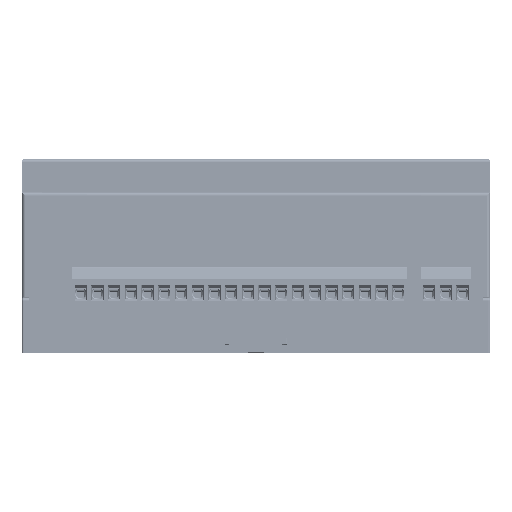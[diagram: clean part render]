
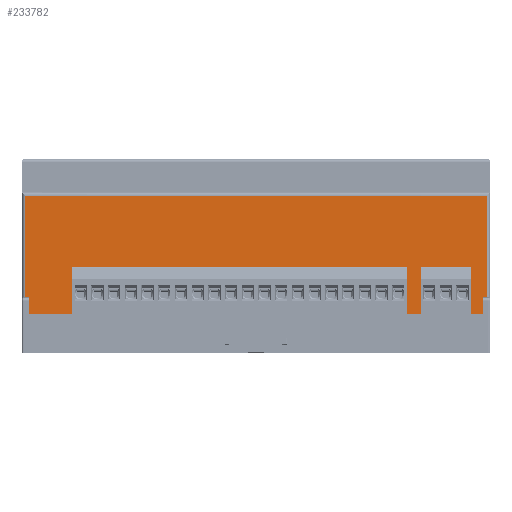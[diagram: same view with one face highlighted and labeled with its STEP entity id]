
A CAD part, top view. The second image highlights one B-rep face of the part: STEP entity #233782.
In plain terms, the highlighted planar face has unit normal (0, 0, 1).
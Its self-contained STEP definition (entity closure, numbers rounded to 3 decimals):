
#4734 = DIRECTION ( 'NONE',  ( 0., 0., -1. ) ) ;
#5945 = ORIENTED_EDGE ( 'NONE', *, *, #133773, .F. ) ;
#7599 = EDGE_CURVE ( 'NONE', #225338, #218861, #44514, .T. ) ;
#11963 = CARTESIAN_POINT ( 'NONE',  ( 1.5, -5., 0. ) ) ;
#18975 = FACE_OUTER_BOUND ( 'NONE', #274359, .T. ) ;
#26932 = EDGE_CURVE ( 'NONE', #74396, #196340, #110303, .T. ) ;
#26937 = CARTESIAN_POINT ( 'NONE',  ( 1.5, -9., 0. ) ) ;
#31595 = EDGE_CURVE ( 'NONE', #218861, #92275, #129099, .T. ) ;
#43118 = CARTESIAN_POINT ( 'NONE',  ( 137., -5., 0. ) ) ;
#44514 = LINE ( 'NONE', #341003, #263163 ) ;
#45870 = DIRECTION ( 'NONE',  ( -1., 0., 0. ) ) ;
#45894 = CARTESIAN_POINT ( 'NONE',  ( 1.5, -9., 0. ) ) ;
#46385 = VECTOR ( 'NONE', #280248, 1000. ) ;
#50726 = EDGE_CURVE ( 'NONE', #363949, #76305, #223145, .T. ) ;
#53532 = CARTESIAN_POINT ( 'NONE',  ( 137., -5., 0. ) ) ;
#56054 = DIRECTION ( 'NONE',  ( 1., 0., 0. ) ) ;
#60472 = DIRECTION ( 'NONE',  ( 0., -1., 0. ) ) ;
#63086 = ORIENTED_EDGE ( 'NONE', *, *, #338202, .T. ) ;
#74396 = VERTEX_POINT ( 'NONE', #149204 ) ;
#76305 = VERTEX_POINT ( 'NONE', #45894 ) ;
#79045 = VERTEX_POINT ( 'NONE', #282581 ) ;
#84269 = DIRECTION ( 'NONE',  ( 1., 0., 0. ) ) ;
#92275 = VERTEX_POINT ( 'NONE', #131366 ) ;
#98589 = ORIENTED_EDGE ( 'NONE', *, *, #206382, .T. ) ;
#100103 = CARTESIAN_POINT ( 'NONE',  ( 1.5, -6.5, 0. ) ) ;
#101321 = VERTEX_POINT ( 'NONE', #257219 ) ;
#101335 = DIRECTION ( 'NONE',  ( 0.707, 0.707, 0. ) ) ;
#101370 = VECTOR ( 'NONE', #101335, 1000. ) ;
#108886 = CARTESIAN_POINT ( 'NONE',  ( 139., 31.5, 0. ) ) ;
#110303 = LINE ( 'NONE', #100103, #101370 ) ;
#110617 = AXIS2_PLACEMENT_3D ( 'NONE', #227905, #4734, #204011 ) ;
#120179 = VECTOR ( 'NONE', #56054, 1000. ) ;
#126269 = VECTOR ( 'NONE', #326210, 1000. ) ;
#126805 = CARTESIAN_POINT ( 'NONE',  ( 1.5, -5., 0. ) ) ;
#129099 = LINE ( 'NONE', #139683, #120179 ) ;
#129269 = LINE ( 'NONE', #245410, #347831 ) ;
#131366 = CARTESIAN_POINT ( 'NONE',  ( 139., -9., 0. ) ) ;
#132570 = EDGE_CURVE ( 'NONE', #313271, #184609, #268956, .T. ) ;
#133773 = EDGE_CURVE ( 'NONE', #346049, #196340, #207068, .T. ) ;
#138282 = VECTOR ( 'NONE', #84269, 1000. ) ;
#139683 = CARTESIAN_POINT ( 'NONE',  ( 140., -9., 0. ) ) ;
#149204 = CARTESIAN_POINT ( 'NONE',  ( 1.5, -6.5, 0. ) ) ;
#151915 = LINE ( 'NONE', #230169, #218813 ) ;
#152717 = ORIENTED_EDGE ( 'NONE', *, *, #257742, .F. ) ;
#162014 = CARTESIAN_POINT ( 'NONE',  ( 138.5, -6.5, 0. ) ) ;
#162147 = ORIENTED_EDGE ( 'NONE', *, *, #31595, .T. ) ;
#175668 = CARTESIAN_POINT ( 'NONE',  ( 3., -5., 0. ) ) ;
#177570 = VECTOR ( 'NONE', #364529, 1000. ) ;
#179564 = LINE ( 'NONE', #193358, #264304 ) ;
#184609 = VERTEX_POINT ( 'NONE', #350414 ) ;
#186478 = LINE ( 'NONE', #108886, #177570 ) ;
#186541 = DIRECTION ( 'NONE',  ( 0.707, -0.707, 0. ) ) ;
#193358 = CARTESIAN_POINT ( 'NONE',  ( 0., 30.5, 0. ) ) ;
#195493 = CARTESIAN_POINT ( 'NONE',  ( 1.5, -5., 0. ) ) ;
#195560 = VECTOR ( 'NONE', #239992, 1000. ) ;
#196340 = VERTEX_POINT ( 'NONE', #175668 ) ;
#198524 = ORIENTED_EDGE ( 'NONE', *, *, #227156, .T. ) ;
#204011 = DIRECTION ( 'NONE',  ( -1., 0., 0. ) ) ;
#206382 = EDGE_CURVE ( 'NONE', #92275, #101321, #186478, .T. ) ;
#207068 = LINE ( 'NONE', #195493, #46385 ) ;
#207713 = CARTESIAN_POINT ( 'NONE',  ( 138.5, -9., 0. ) ) ;
#210034 = VECTOR ( 'NONE', #186541, 1000. ) ;
#218813 = VECTOR ( 'NONE', #60472, 1000. ) ;
#218861 = VERTEX_POINT ( 'NONE', #207713 ) ;
#223145 = LINE ( 'NONE', #26937, #138282 ) ;
#225338 = VERTEX_POINT ( 'NONE', #162014 ) ;
#227156 = EDGE_CURVE ( 'NONE', #79045, #363949, #151915, .T. ) ;
#227905 = CARTESIAN_POINT ( 'NONE',  ( 0., 31.5, 0. ) ) ;
#230169 = CARTESIAN_POINT ( 'NONE',  ( 1., 31.5, 0. ) ) ;
#232352 = ORIENTED_EDGE ( 'NONE', *, *, #335498, .T. ) ;
#233782 = ADVANCED_FACE ( 'NONE', ( #18975 ), #288825, .F. ) ;
#239992 = DIRECTION ( 'NONE',  ( 0., -1., 0. ) ) ;
#245410 = CARTESIAN_POINT ( 'NONE',  ( 1.5, -5., 0. ) ) ;
#252076 = ORIENTED_EDGE ( 'NONE', *, *, #50726, .T. ) ;
#254753 = LINE ( 'NONE', #43118, #210034 ) ;
#257219 = CARTESIAN_POINT ( 'NONE',  ( 139., 30.5, 0. ) ) ;
#257742 = EDGE_CURVE ( 'NONE', #74396, #76305, #280315, .T. ) ;
#263163 = VECTOR ( 'NONE', #369764, 1000. ) ;
#264304 = VECTOR ( 'NONE', #279360, 1000. ) ;
#268956 = LINE ( 'NONE', #126805, #126269 ) ;
#274359 = EDGE_LOOP ( 'NONE', ( #198524, #252076, #152717, #325827, #5945, #285540, #356643, #232352, #327382, #162147, #98589, #63086 ) ) ;
#276569 = EDGE_CURVE ( 'NONE', #184609, #346049, #129269, .T. ) ;
#279360 = DIRECTION ( 'NONE',  ( -1., 0., 0. ) ) ;
#280248 = DIRECTION ( 'NONE',  ( -1., 0., 0. ) ) ;
#280315 = LINE ( 'NONE', #11963, #195560 ) ;
#282581 = CARTESIAN_POINT ( 'NONE',  ( 1., 30.5, 0. ) ) ;
#285540 = ORIENTED_EDGE ( 'NONE', *, *, #276569, .F. ) ;
#288825 = PLANE ( 'NONE',  #110617 ) ;
#313271 = VERTEX_POINT ( 'NONE', #53532 ) ;
#325827 = ORIENTED_EDGE ( 'NONE', *, *, #26932, .T. ) ;
#326210 = DIRECTION ( 'NONE',  ( -1., 0., 0. ) ) ;
#327382 = ORIENTED_EDGE ( 'NONE', *, *, #7599, .T. ) ;
#335498 = EDGE_CURVE ( 'NONE', #313271, #225338, #254753, .T. ) ;
#338202 = EDGE_CURVE ( 'NONE', #101321, #79045, #179564, .T. ) ;
#341003 = CARTESIAN_POINT ( 'NONE',  ( 138.5, -5., 0. ) ) ;
#342832 = CARTESIAN_POINT ( 'NONE',  ( 45., -5., 0. ) ) ;
#344578 = CARTESIAN_POINT ( 'NONE',  ( 1., -9., 0. ) ) ;
#346049 = VERTEX_POINT ( 'NONE', #342832 ) ;
#347831 = VECTOR ( 'NONE', #45870, 1000. ) ;
#350414 = CARTESIAN_POINT ( 'NONE',  ( 95., -5., 0. ) ) ;
#356643 = ORIENTED_EDGE ( 'NONE', *, *, #132570, .F. ) ;
#363949 = VERTEX_POINT ( 'NONE', #344578 ) ;
#364529 = DIRECTION ( 'NONE',  ( 0., 1., 0. ) ) ;
#369764 = DIRECTION ( 'NONE',  ( 0., -1., 0. ) ) ;
